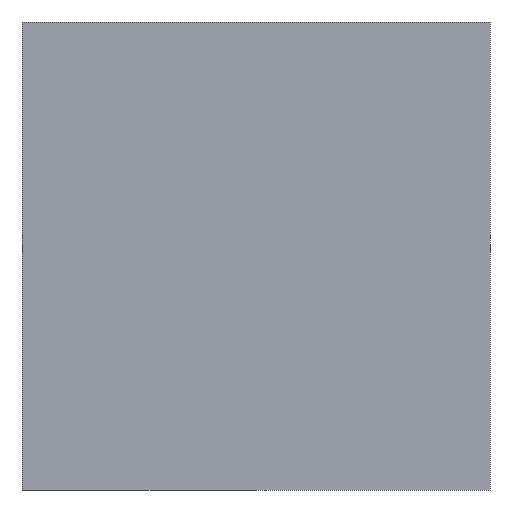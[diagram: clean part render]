
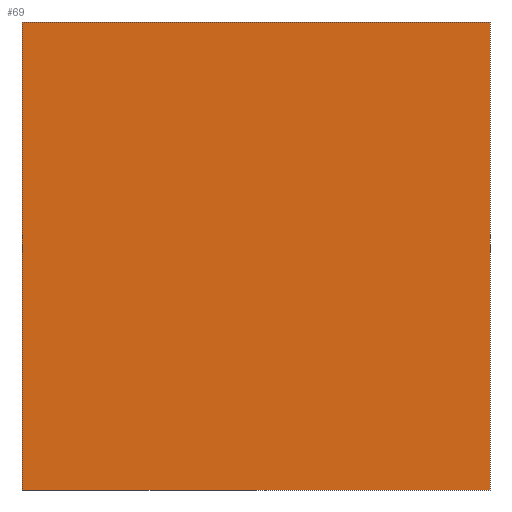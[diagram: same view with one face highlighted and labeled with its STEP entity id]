
A CAD part, left-side view. The second image highlights one B-rep face of the part: STEP entity #69.
In plain terms, the highlighted planar face has unit normal (-1, 0, 0).
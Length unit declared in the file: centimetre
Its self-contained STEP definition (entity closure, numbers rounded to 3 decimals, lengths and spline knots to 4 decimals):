
#2 = VERTEX_POINT ( 'NONE', #101 ) ;
#12 = VECTOR ( 'NONE', #401, 100. ) ;
#31 = LINE ( 'NONE', #648, #12 ) ;
#45 = VERTEX_POINT ( 'NONE', #504 ) ;
#69 = ADVANCED_FACE ( 'NONE', ( #507 ), #142, .F. ) ;
#101 = CARTESIAN_POINT ( 'NONE',  ( 0., 0., 1000. ) ) ;
#116 = CARTESIAN_POINT ( 'NONE',  ( 0., 0., 1000. ) ) ;
#142 = PLANE ( 'NONE',  #331 ) ;
#158 = VERTEX_POINT ( 'NONE', #440 ) ;
#204 = DIRECTION ( 'NONE',  ( 0., -1., 0. ) ) ;
#216 = EDGE_CURVE ( 'NONE', #444, #45, #31, .T. ) ;
#318 = EDGE_CURVE ( 'NONE', #2, #158, #382, .T. ) ;
#329 = DIRECTION ( 'NONE',  ( 0., 0., -1. ) ) ;
#331 = AXIS2_PLACEMENT_3D ( 'NONE', #459, #562, #345 ) ;
#332 = VECTOR ( 'NONE', #357, 100. ) ;
#345 = DIRECTION ( 'NONE',  ( 0., 0., -1. ) ) ;
#357 = DIRECTION ( 'NONE',  ( 0., -1., 0. ) ) ;
#367 = EDGE_CURVE ( 'NONE', #45, #158, #591, .T. ) ;
#371 = ORIENTED_EDGE ( 'NONE', *, *, #216, .T. ) ;
#382 = LINE ( 'NONE', #116, #577 ) ;
#394 = ORIENTED_EDGE ( 'NONE', *, *, #318, .F. ) ;
#401 = DIRECTION ( 'NONE',  ( 0., 0., -1. ) ) ;
#440 = CARTESIAN_POINT ( 'NONE',  ( 0., 0., 0. ) ) ;
#444 = VERTEX_POINT ( 'NONE', #567 ) ;
#447 = CARTESIAN_POINT ( 'NONE',  ( 0., 1000., 0. ) ) ;
#459 = CARTESIAN_POINT ( 'NONE',  ( 0., 1000., 1000. ) ) ;
#504 = CARTESIAN_POINT ( 'NONE',  ( 0., 1000., 0. ) ) ;
#507 = FACE_OUTER_BOUND ( 'NONE', #544, .T. ) ;
#535 = ORIENTED_EDGE ( 'NONE', *, *, #367, .T. ) ;
#540 = ORIENTED_EDGE ( 'NONE', *, *, #628, .F. ) ;
#544 = EDGE_LOOP ( 'NONE', ( #535, #394, #540, #371 ) ) ;
#562 = DIRECTION ( 'NONE',  ( 1., 0., 0. ) ) ;
#567 = CARTESIAN_POINT ( 'NONE',  ( 0., 1000., 1000. ) ) ;
#577 = VECTOR ( 'NONE', #329, 100. ) ;
#591 = LINE ( 'NONE', #447, #332 ) ;
#606 = LINE ( 'NONE', #651, #623 ) ;
#623 = VECTOR ( 'NONE', #204, 100. ) ;
#628 = EDGE_CURVE ( 'NONE', #444, #2, #606, .T. ) ;
#648 = CARTESIAN_POINT ( 'NONE',  ( 0., 1000., 1000. ) ) ;
#651 = CARTESIAN_POINT ( 'NONE',  ( 0., 1000., 1000. ) ) ;
